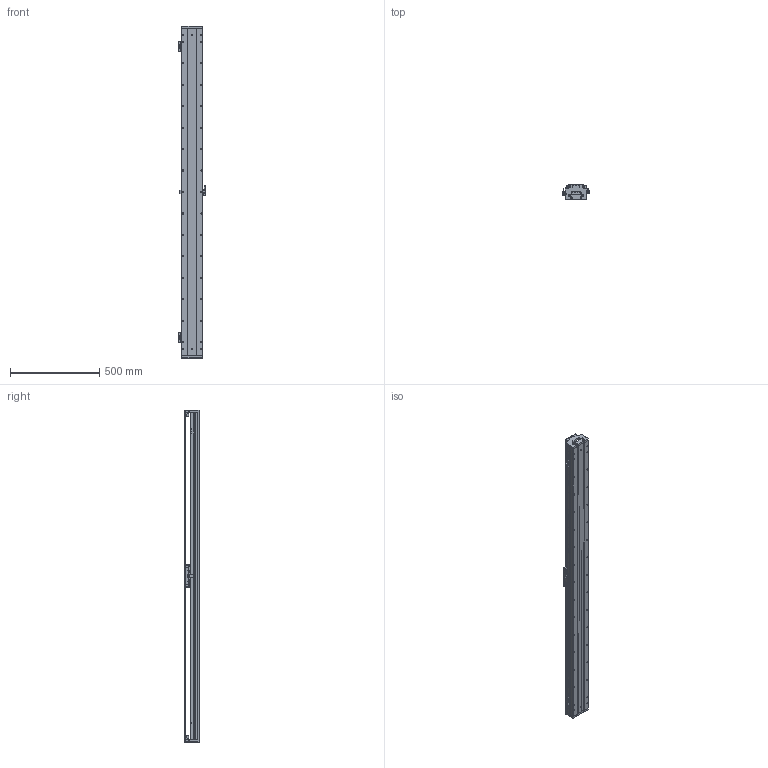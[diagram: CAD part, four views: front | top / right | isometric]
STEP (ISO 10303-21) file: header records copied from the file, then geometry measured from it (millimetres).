
FILE_DESCRIPTION (( 'STEP AP203' ), '1' );
FILE_NAME ('DKW120-B15-W060（T1620-L005-0.2）.STEP', '2021-09-07T06:17:19', ( '微软用户' ), ( '微软中国' ), 'SwSTEP 2.0', 'SolidWorks 2018', '' );
FILE_SCHEMA (( 'CONFIG_CONTROL_DESIGN' ));
Length unit declared in the file: millimetre
Products named in the file (24): BKM015-W060-C1-TP-3; EE_SX674A; 12160-0000-004-00  DKW120詩湍揤輸; B15-W060; DKW120-B15-W060（T1620-L005-0.2）; DKW120 单轴模组-拉钢带组件; MSB15-DG-U; BKMA01-W060-TRL280; 06652-0001-001-00 DKW120傷啣; DKW120-B15-T300-DZ-00 菁釱; RUS嫖掑喜; 06652-0001-004-00 DKW120嶺輸菜輸; DKW-SG-GYP-H-00 嫖萇覜茼え; Ru2; DKW-HXJ-JY-00 遣喳砎蝶; DKW-HYB-JY-A-00 賑輸揤啣A; RUS嫖掑郪璃; 10940-0001-004-00 120詩湍裔啣; DKW119-HT-C15-00 賑怢啣; DKW119-RU-DTJ-00 RU2黍杅芛盓殤; 砎蝶猾沭; MSB15TS2FC+U92.7-16.35_16.35N_(0_45.85_0_01G-M4); 10980-0001-003-00 嫖萇羲壽嘐隅釱; 12160-0000-003-00 DKW120詩湍嶺輸
Assembly tree (41 placements, depth 3):
  DKW120-B15-W060（T1620-L005-0.2）
    DKW120-B15-T300-DZ-00 菁釱
    B15-W060
      DKW-SG-GYP-H-00 嫖萇覜茼え
      DKW-HYB-JY-A-00 賑輸揤啣A  x2
      DKW119-HT-C15-00 賑怢啣
      MSB15TS2FC+U92.7-16.35_16.35N_(0_45.85_0_01G-M4)  x4
      BKM015-W060-C1-TP-3
    MSB15-DG-U  x2
    DKW120 单轴模组-拉钢带组件
      06652-0001-001-00 DKW120傷啣  x2
      06652-0001-004-00 DKW120嶺輸菜輸  x4
      DKW-HXJ-JY-00 遣喳砎蝶  x4
      10940-0001-004-00 120詩湍裔啣
      砎蝶猾沭  x2
      12160-0000-003-00 DKW120詩湍嶺輸  x2
      12160-0000-004-00  DKW120詩湍揤輸  x2
    BKMA01-W060-TRL280
    RUS嫖掑郪璃
      RUS嫖掑喜
      Ru2
    DKW119-RU-DTJ-00 RU2黍杅芛盓殤
    10980-0001-003-00 嫖萇羲壽嘐隅釱  x2
    EE_SX674A  x3
Bounding box: 154.11 x 84 x 1856 mm (x, y, z)
Volume: 6290311.6 mm3; surface area: 2530600.2 mm2
Topology: 49 solids, 98 shells, 4484 faces, 12321 edges, 7945 vertices
Faces by surface type: plane 2451, cylinder 1400, cone 366, bspline 267
Entity records: 126866 total; most frequent: CARTESIAN_POINT 45727, ORIENTED_EDGE 16791, DIRECTION 15393, EDGE_CURVE 8436, VERTEX_POINT 5540, AXIS2_PLACEMENT_3D 5143, LINE 5107, VECTOR 5107
